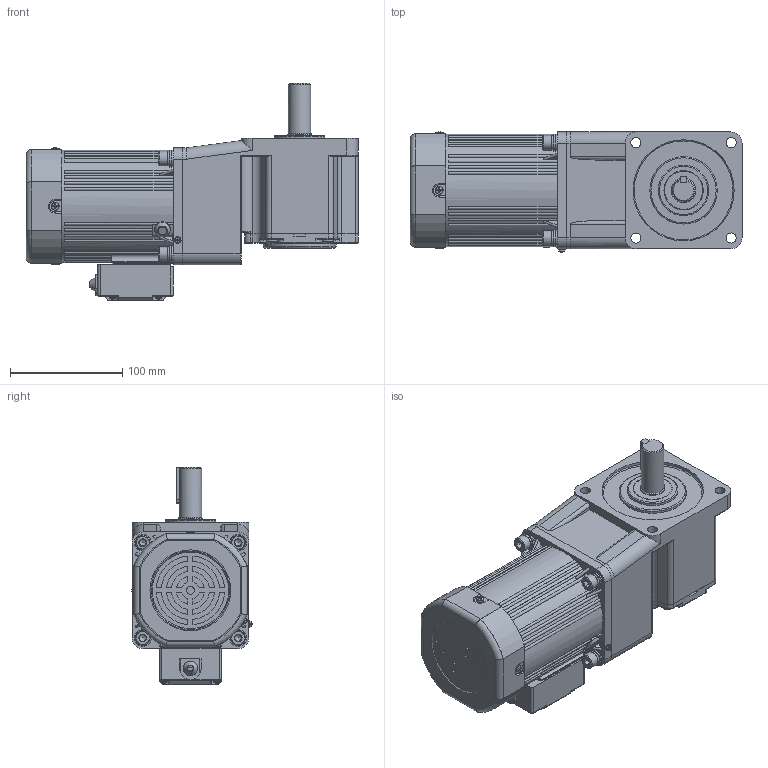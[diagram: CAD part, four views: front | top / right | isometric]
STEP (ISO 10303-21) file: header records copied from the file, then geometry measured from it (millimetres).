
FILE_DESCRIPTION(/* description */ (''),/* implementation_level */ '2;1');
FILE_NAME(/* name */ '100+直角中实-风叶-120-140W 新版标准接线盒.stp',/* time_stamp */ '2025-11-26T09:21:35+08:00',/* author */ (''),/* organization */ (''),/* preprocessor_version */ 'ST-DEVELOPER v18.102',/* originating_system */ 'SIEMENS PLM Software NX 2027',/* authorisation */ '');
FILE_SCHEMA (('AUTOMOTIVE_DESIGN { 1 0 10303 214 3 1 1 1 }'));
Products named in the file (1): 100+直角中实-风叶-120-140W 新版标准接线盒_
stp
Bounding box: 295.5 x 106.83 x 193.5 mm (x, y, z)
Volume: 2902128.9 mm3; surface area: 405717 mm2
Topology: 26 solids, 26 shells, 2458 faces, 6357 edges, 4065 vertices
Faces by surface type: plane 1087, cylinder 802, bspline 221, torus 166, cone 138, sphere 44
Full cylindrical faces by diameter (mm): 2.2 x2, 2.6 x2, 2.7 x1, 2.9 x4, 3 x17, 3.2 x2, 3.5 x6, 3.6 x4, 4 x4, 4.2 x1, 4.55 x2, 4.8 x1, 5.1 x2, 5.15 x2, 5.6 x4, 6 x12, 6.8 x12, 7 x3, 7.5 x2, 7.76 x4, 8 x1, 8.4 x4, 9 x13, 9.3 x1, 9.5 x4, 10 x2, 13 x4, 14 x8, 15 x5, 15.5 x2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
Entity records: 75445 total; most frequent: CARTESIAN_POINT 18356, ORIENTED_EDGE 11724, DIRECTION 11430, EDGE_CURVE 5862, AXIS2_PLACEMENT_3D 4399, VERTEX_POINT 3936, EDGE_LOOP 3015, LINE 2632
